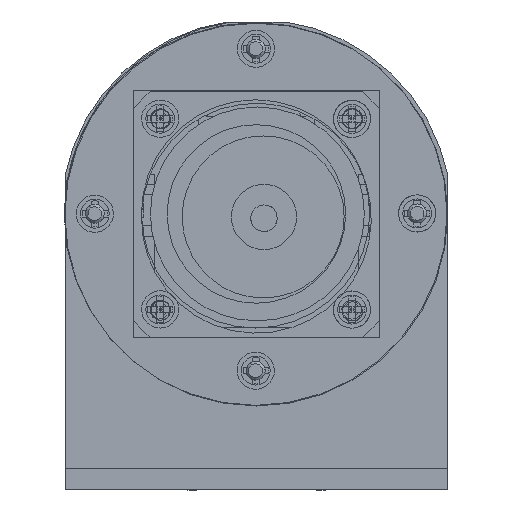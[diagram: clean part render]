
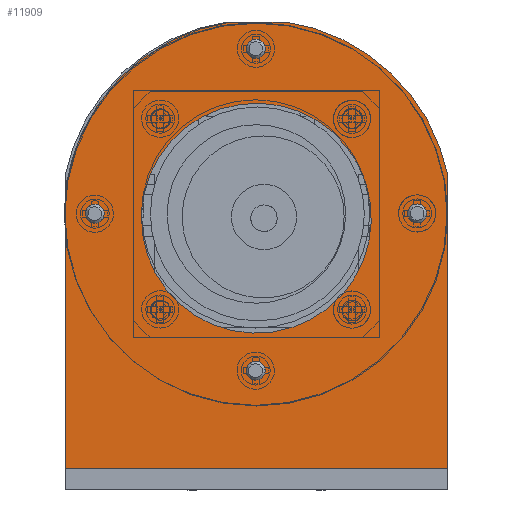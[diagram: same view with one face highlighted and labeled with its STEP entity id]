
A CAD part, front view. The second image highlights one B-rep face of the part: STEP entity #11909.
In plain terms, the highlighted planar face has unit normal (0, -1, 0).
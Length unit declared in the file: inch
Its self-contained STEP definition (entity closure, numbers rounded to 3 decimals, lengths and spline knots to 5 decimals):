
#519=FACE_BOUND('',#2324,.T.);
#839=CIRCLE('',#12961,0.67548);
#840=CIRCLE('',#12962,0.67548);
#845=CIRCLE('',#12972,1.13853);
#848=CIRCLE('',#12977,1.13853);
#1521=FACE_OUTER_BOUND('',#2323,.T.);
#2323=EDGE_LOOP('',(#9552,#9553,#9554,#9555,#9556,#9557));
#2324=EDGE_LOOP('',(#9558,#9559));
#3317=LINE('',#19643,#4307);
#3322=LINE('',#19659,#4312);
#3326=LINE('',#19666,#4316);
#3327=LINE('',#19667,#4317);
#4307=VECTOR('',#15547,0.3937);
#4312=VECTOR('',#15562,0.3937);
#4316=VECTOR('',#15568,0.3937);
#4317=VECTOR('',#15569,0.3937);
#5284=VERTEX_POINT('',#19600);
#5285=VERTEX_POINT('',#19602);
#5294=VERTEX_POINT('',#19630);
#5295=VERTEX_POINT('',#19631);
#5299=VERTEX_POINT('',#19641);
#5301=VERTEX_POINT('',#19647);
#5304=VERTEX_POINT('',#19657);
#5305=VERTEX_POINT('',#19658);
#6730=EDGE_CURVE('',#5285,#5284,#839,.T.);
#6731=EDGE_CURVE('',#5284,#5285,#840,.T.);
#6744=EDGE_CURVE('',#5294,#5295,#845,.T.);
#6750=EDGE_CURVE('',#5299,#5295,#3317,.T.);
#6753=EDGE_CURVE('',#5299,#5301,#848,.T.);
#6757=EDGE_CURVE('',#5304,#5305,#3322,.T.);
#6761=EDGE_CURVE('',#5304,#5301,#3326,.T.);
#6762=EDGE_CURVE('',#5294,#5305,#3327,.T.);
#9552=ORIENTED_EDGE('',*,*,#6744,.T.);
#9553=ORIENTED_EDGE('',*,*,#6750,.F.);
#9554=ORIENTED_EDGE('',*,*,#6753,.T.);
#9555=ORIENTED_EDGE('',*,*,#6761,.F.);
#9556=ORIENTED_EDGE('',*,*,#6757,.T.);
#9557=ORIENTED_EDGE('',*,*,#6762,.F.);
#9558=ORIENTED_EDGE('',*,*,#6730,.T.);
#9559=ORIENTED_EDGE('',*,*,#6731,.T.);
#11224=PLANE('',#12980);
#11909=ADVANCED_FACE('',(#1521,#519),#11224,.T.);
#12961=AXIS2_PLACEMENT_3D('',#19603,#15507,#15508);
#12962=AXIS2_PLACEMENT_3D('',#19604,#15509,#15510);
#12972=AXIS2_PLACEMENT_3D('',#19632,#15537,#15538);
#12977=AXIS2_PLACEMENT_3D('',#19649,#15553,#15554);
#12980=AXIS2_PLACEMENT_3D('',#19665,#15566,#15567);
#15507=DIRECTION('center_axis',(0.,1.,0.));
#15508=DIRECTION('ref_axis',(0.14,0.,-0.99));
#15509=DIRECTION('center_axis',(0.,1.,0.));
#15510=DIRECTION('ref_axis',(0.14,0.,-0.99));
#15537=DIRECTION('center_axis',(0.,-1.,0.));
#15538=DIRECTION('ref_axis',(0.14,0.,0.99));
#15547=DIRECTION('',(1.,0.,0.));
#15553=DIRECTION('center_axis',(0.,-1.,0.));
#15554=DIRECTION('ref_axis',(-0.996,0.,0.093));
#15562=DIRECTION('',(1.,0.,0.));
#15566=DIRECTION('center_axis',(0.,-1.,0.));
#15567=DIRECTION('ref_axis',(0.,0.,-1.));
#15568=DIRECTION('',(0.,0.,1.));
#15569=DIRECTION('',(0.,0.,-1.));
#19600=CARTESIAN_POINT('',(537.05549,6605.05631,1361.02358));
#19602=CARTESIAN_POINT('',(536.4813,6605.05631,1360.26014));
#19603=CARTESIAN_POINT('Origin',(537.15011,6605.05631,1360.35477));
#19604=CARTESIAN_POINT('Origin',(537.15011,6605.05631,1360.35477));
#19630=CARTESIAN_POINT('',(538.27567,6605.05631,1360.60383));
#19631=CARTESIAN_POINT('',(537.31877,6605.05631,1361.50772));
#19632=CARTESIAN_POINT('Origin',(537.15928,6605.05631,1360.38042));
#19641=CARTESIAN_POINT('',(536.99979,6605.05631,1361.50772));
#19643=CARTESIAN_POINT('',(536.99979,6605.05631,1361.50772));
#19647=CARTESIAN_POINT('',(536.02567,6605.05631,1360.48616));
#19649=CARTESIAN_POINT('Origin',(537.15928,6605.05631,1360.38042));
#19657=CARTESIAN_POINT('',(536.02567,6605.05631,1358.88272));
#19658=CARTESIAN_POINT('',(538.27567,6605.05631,1358.88272));
#19659=CARTESIAN_POINT('',(536.02567,6605.05631,1358.88272));
#19665=CARTESIAN_POINT('Origin',(537.15067,6605.05631,1358.88172));
#19666=CARTESIAN_POINT('',(536.02567,6605.05631,1358.88272));
#19667=CARTESIAN_POINT('',(538.27567,6605.05631,1360.60383));
